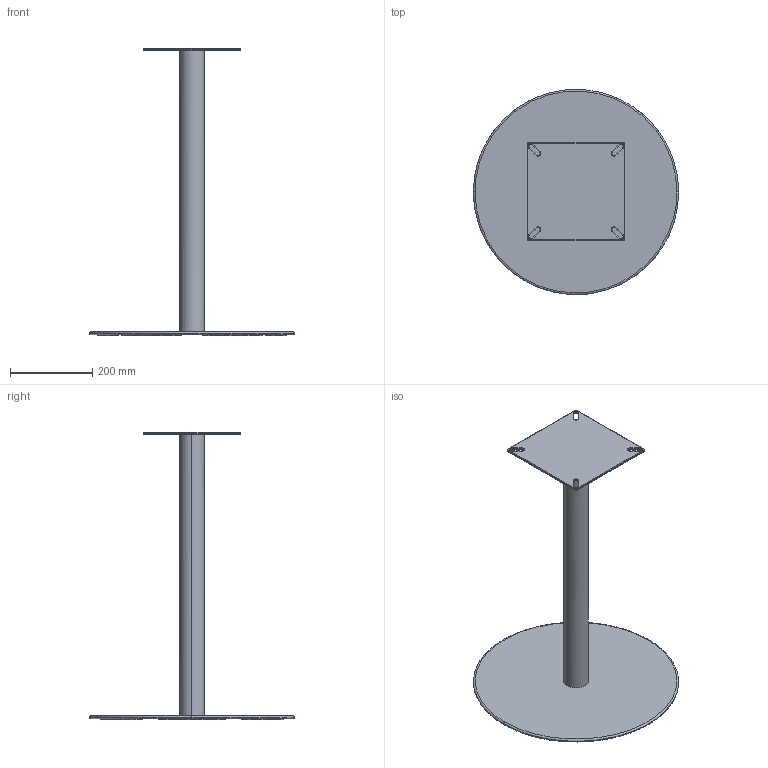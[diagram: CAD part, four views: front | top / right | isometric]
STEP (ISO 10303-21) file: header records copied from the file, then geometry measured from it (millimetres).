
FILE_DESCRIPTION(/* description */ (''),/* implementation_level */ '2;1');
FILE_NAME(/* name */ 'KINOSH~4',/* time_stamp */ '2021-12-08T09:23:25+09:00',/* author */ (''),/* organization */ (''),/* preprocessor_version */ 'ST-DEVELOPER v15',/* originating_system */ '',/* authorisation */ '');
FILE_SCHEMA (('AUTOMOTIVE_DESIGN'));
Length unit declared in the file: millimetre
Products named in the file (1): Document
Bounding box: 500 x 499.2 x 700 mm (x, y, z)
Volume: 3884258.4 mm3; surface area: 720206.9 mm2
Topology: 7 solids, 7 shells, 118 faces, 256 edges, 154 vertices
Faces by surface type: bspline 98, plane 20
Entity records: 4885 total; most frequent: CARTESIAN_POINT 3462, ORIENTED_EDGE 512, EDGE_CURVE 256, VERTEX_POINT 154, EDGE_LOOP 128, ADVANCED_FACE 118, FACE_OUTER_BOUND 118, B_SPLINE_CURVE_WITH_KNOTS 24
